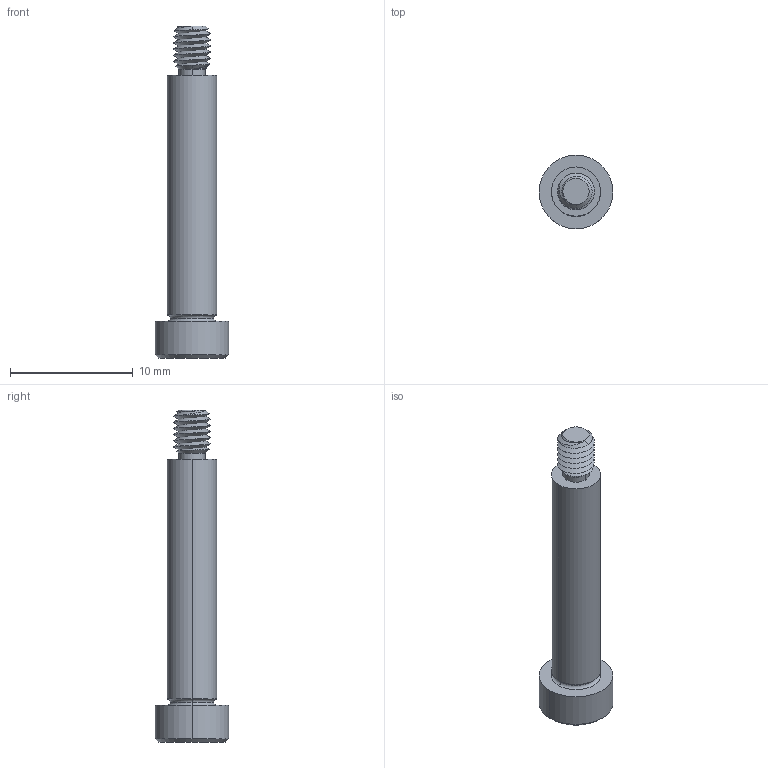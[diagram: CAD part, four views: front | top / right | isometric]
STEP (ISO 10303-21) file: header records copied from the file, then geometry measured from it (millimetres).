
FILE_DESCRIPTION (( 'STEP AP203' ), '1' );
FILE_NAME ('P0130.040-020-B2.step', '2021-11-09T21:05:55', ( '' ), ( '' ), 'SwSTEP 2.0', 'SolidWorks 2019', '' );
FILE_SCHEMA (( 'CONFIG_CONTROL_DESIGN' ));
Length unit declared in the file: millimetre
Products named in the file (1): P0130.040-020-B2
Bounding box: 6 x 6 x 27 mm (x, y, z)
Volume: 346.6 mm3; surface area: 435.7 mm2
Topology: 1 solids, 1 shells, 54 faces, 124 edges, 73 vertices
Faces by surface type: cylinder 18, plane 16, cone 14, torus 4, bspline 2
Entity records: 2218 total; most frequent: CARTESIAN_POINT 1016, ORIENTED_EDGE 244, DIRECTION 229, EDGE_CURVE 122, AXIS2_PLACEMENT_3D 93, VERTEX_POINT 73, EDGE_LOOP 57, FACE_OUTER_BOUND 54
